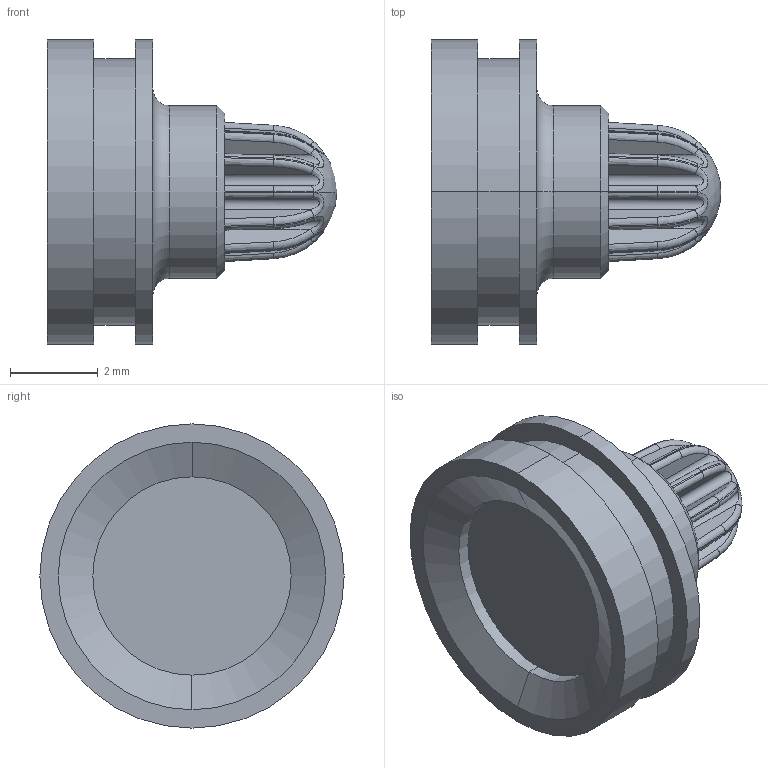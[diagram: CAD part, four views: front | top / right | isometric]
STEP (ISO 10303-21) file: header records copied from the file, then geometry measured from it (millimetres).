
FILE_DESCRIPTION (( 'STEP AP214' ), '1' );
FILE_NAME ('JEMA2712----.STEP', '2021-04-20T12:09:04', ( '' ), ( '' ), 'SwSTEP 2.0', 'SolidWorks 2019', '' );
FILE_SCHEMA (( 'AUTOMOTIVE_DESIGN' ));
Length unit declared in the file: inch
Products named in the file (1): JEMA2712----
Bounding box: 6.6 x 6.93 x 6.93 mm (x, y, z)
Volume: 99.7 mm3; surface area: 206.9 mm2
Topology: 1 solids, 1 shells, 401 faces, 1125 edges, 731 vertices
Faces by surface type: plane 260, bspline 53, cone 34, cylinder 26, torus 26, sphere 2
Entity records: 20378 total; most frequent: CARTESIAN_POINT 5167, ORIENTED_EDGE 2250, DIRECTION 1829, EDGE_CURVE 1125, VERTEX_POINT 731, LINE 707, VECTOR 707, AXIS2_PLACEMENT_3D 561
